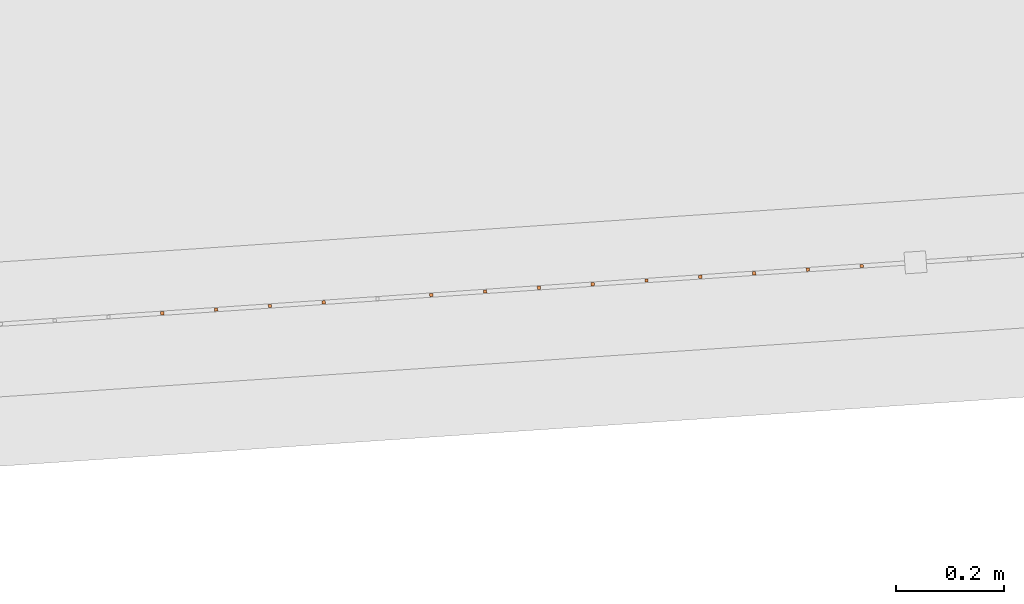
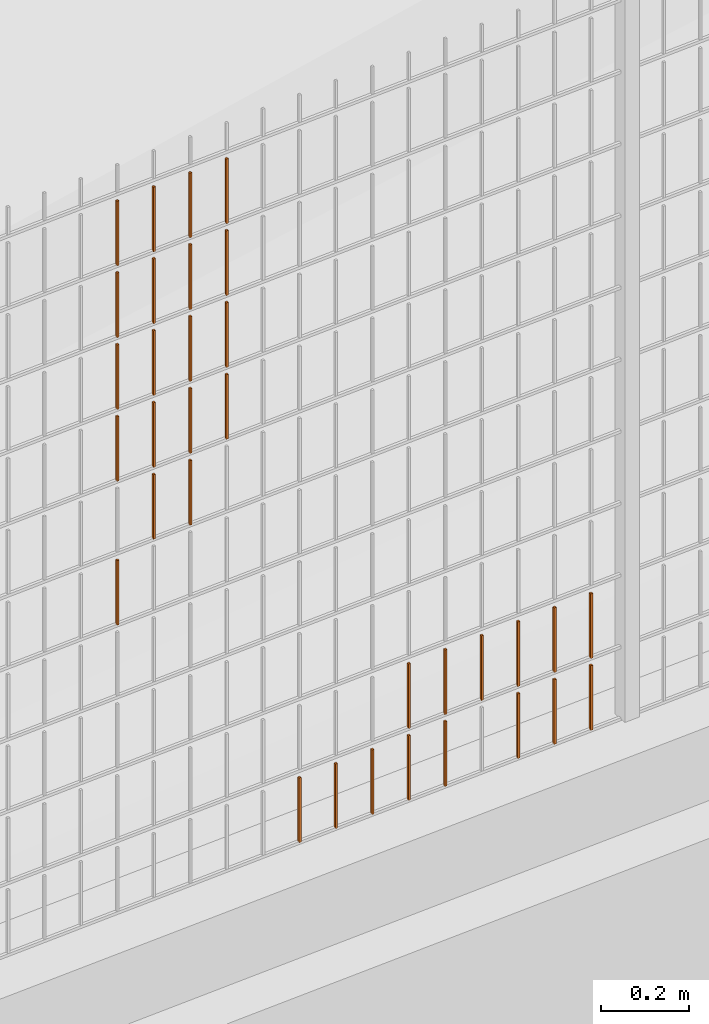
# One storey, part 108 of 1809: 33 proxies, 1 element without a shape of its own.
"""IFC2X3 building model written with IfcOpenShell, lengths in millimetres."""

import ifcopenshell
import ifcopenshell.guid

model = None  # the IFC model being written
_history = None  # IfcOwnerHistory: only IFC2X3 demands one
_inside = {}  # id of a spatial element -> (the spatial element, [elements in it])
_under = {}  # id of a project, library or spatial element -> (it, [spatial elements below it])
_declared = {}  # id of a project -> (the project, [libraries it declares])
_typed = {}  # id of a type object -> (the type object, [elements of that type])
_made_of = {}  # id of a material, layer set ... -> (it, [elements and type objects made of it])


def new_model(schema):
    """Start an empty IFC model of exactly this schema.

    Asked for "IFC4X3", IfcOpenShell would pick the latest addendum, in which some entities
    have other attributes; the version numbers below select the first issue.
    IFC2X3 requires an IfcOwnerHistory on every rooted entity: one is made here for all.
    """
    global model, _history
    if schema == "IFC4X3":
        model = ifcopenshell.file(schema_version=(4, 3, 0, 0))
    else:
        model = ifcopenshell.file(schema=schema)
    _inside.clear()
    _under.clear()
    _declared.clear()
    _typed.clear()
    _made_of.clear()
    _history = None
    if model.schema == "IFC2X3":
        org = make("IfcOrganization", Name="unknown")
        user = make(
            "IfcPersonAndOrganization",
            ThePerson=make("IfcPerson", FamilyName="unknown"),
            TheOrganization=org,
        )
        app = make(
            "IfcApplication",
            ApplicationDeveloper=org,
            Version="unknown",
            ApplicationFullName="unknown",
            ApplicationIdentifier="unknown",
        )
        _history = make(
            "IfcOwnerHistory",
            OwningUser=user,
            OwningApplication=app,
            ChangeAction="ADDED",
            CreationDate=0,
        )
    return model


def make(cls, **values):
    """One entity of the class cls with the attributes given. An attribute that is None is left unset."""
    return model.create_entity(
        cls, **{name: value for name, value in values.items() if value is not None}
    )


def entity(cls, *values):
    """Any entity or typed value of the class cls, its attributes in the order of the schema. None: left unset."""
    e = model.create_entity(cls)
    for i, value in enumerate(values):
        if value is not None:
            e[i] = value
    return e


def rooted(cls, **values):
    """An entity with a GlobalId (a new one), such as an element, a storey or a relation."""
    return make(cls, GlobalId=ifcopenshell.guid.new(), OwnerHistory=_history, **values)


def si_unit(unit_type, name, prefix=None):
    """IfcSIUnit, for example si_unit("LENGTHUNIT", "METRE", prefix="MILLI")."""
    return make("IfcSIUnit", UnitType=unit_type, Prefix=prefix, Name=name)


def converted_unit(unit_type, name, factor, base, dimensions=None, offset=None):
    """IfcConversionBasedUnit, such as the inch: factor (a typed value) times the base unit."""
    return make(
        "IfcConversionBasedUnit"
        if offset is None
        else "IfcConversionBasedUnitWithOffset",
        ConversionOffset=offset,
        Dimensions=None
        if dimensions is None
        else entity("IfcDimensionalExponents", *dimensions),
        UnitType=unit_type,
        Name=name,
        ConversionFactor=make(
            "IfcMeasureWithUnit", ValueComponent=factor, UnitComponent=base
        ),
    )


def derived_unit(unit_type, elements):
    """IfcDerivedUnit: a product of units, each with its exponent."""
    return make(
        "IfcDerivedUnit",
        Elements=[
            make("IfcDerivedUnitElement", Unit=unit, Exponent=power)
            for unit, power in elements
        ],
        UnitType=unit_type,
    )


def money_unit(currency):
    """IfcMonetaryUnit."""
    return make("IfcMonetaryUnit", Currency=currency)


def assignment(units):
    """IfcUnitAssignment: the units of a project."""
    return None if units is None else make("IfcUnitAssignment", Units=units)


def point(xyz):
    """IfcCartesianPoint."""
    return None if xyz is None else make("IfcCartesianPoint", Coordinates=xyz)


def direction(xyz):
    """IfcDirection."""
    return None if xyz is None else make("IfcDirection", DirectionRatios=xyz)


def frame(location, z_axis=None, x_axis=None):
    """IfcAxis2Placement3D, a coordinate frame: its origin and axes. An axis left out is left unset."""
    return make(
        "IfcAxis2Placement3D",
        Location=point(location),
        Axis=direction(z_axis),
        RefDirection=direction(x_axis),
    )


def origin_with_axes():
    """The frame at (0, 0, 0) with the z axis (0, 0, 1) and the x axis (1, 0, 0) written out."""
    return frame((0.0, 0.0, 0.0), z_axis=(0.0, 0.0, 1.0), x_axis=(1.0, 0.0, 0.0))


def place(relative_to, where):
    """IfcLocalPlacement: puts the frame where relative to a parent placement (None: the world)."""
    return make(
        "IfcLocalPlacement", PlacementRelTo=relative_to, RelativePlacement=where
    )


def context(
    kind, dimensions, precision=None, world=None, true_north=None, identifier=None
):
    """IfcGeometricRepresentationContext, for example the 3D "Model" context."""
    return make(
        "IfcGeometricRepresentationContext",
        ContextIdentifier=identifier,
        ContextType=kind,
        CoordinateSpaceDimension=dimensions,
        Precision=precision,
        WorldCoordinateSystem=world,
        TrueNorth=true_north,
    )


def subcontext(parent, identifier, kind, view, scale=None):
    """IfcGeometricRepresentationSubContext, for example "Body" below "Model"."""
    return make(
        "IfcGeometricRepresentationSubContext",
        ContextIdentifier=identifier,
        ContextType=kind,
        ParentContext=parent,
        TargetScale=scale,
        TargetView=view,
    )


def project(units=None, contexts=None):
    """IfcProject with its units and contexts."""
    return rooted(
        "IfcProject",
        Name="project",
        RepresentationContexts=contexts,
        UnitsInContext=assignment(units),
    )


def spatial(cls, under=None, at=None, **own):
    """A site, building, storey or space (cls), placed at a placement, below another one or the project."""
    s = rooted(cls, ObjectPlacement=at, **own)
    if under is not None:
        _under.setdefault(under.id(), (under, []))[1].append(s)
    return s


def faces_of(points, faces, orient=None, outer=None):
    """IfcFace entities. A face is a list of loops; a loop is a list of indices into points, from 0.

    orient and outer hold one flag for each loop. By default every Orientation is true, the
    first loop of a face is its IfcFaceOuterBound and the others are IfcFaceBound.
    """
    made = []
    for i, loops in enumerate(faces):
        bounds = []
        for j, loop in enumerate(loops):
            is_outer = j == 0 if outer is None else outer[i][j]
            bounds.append(
                make(
                    "IfcFaceOuterBound" if is_outer else "IfcFaceBound",
                    Bound=make("IfcPolyLoop", Polygon=[points[k] for k in loop]),
                    Orientation=True if orient is None else orient[i][j],
                )
            )
        made.append(make("IfcFace", Bounds=bounds))
    return made


def faceted_brep(points, faces, orient=None, outer=None, voids=None):
    """IfcFacetedBrep: a solid bounded by flat faces; with voids (closed shells), ...WithVoids."""
    shared = [point(p) for p in points]
    hull = make("IfcClosedShell", CfsFaces=faces_of(shared, faces, orient, outer))
    if voids is None:
        return make("IfcFacetedBrep", Outer=hull)
    return make(
        "IfcFacetedBrepWithVoids",
        Outer=hull,
        Voids=[
            make(cls, CfsFaces=faces_of(shared, fs, o, b)) for cls, fs, o, b in voids
        ],
    )


def shape(context_of_items, identifier, shape_type, items):
    """IfcShapeRepresentation: the items that make up one representation, for example the "Body"."""
    return make(
        "IfcShapeRepresentation",
        ContextOfItems=context_of_items,
        RepresentationIdentifier=identifier,
        RepresentationType=shape_type,
        Items=items,
    )


def source(mapping_origin, context_of_items, identifier, shape_type, items):
    """IfcRepresentationMap: a shape defined once, which mapped items show again and again."""
    return make(
        "IfcRepresentationMap",
        MappingOrigin=mapping_origin,
        MappedRepresentation=shape(context_of_items, identifier, shape_type, items),
    )


def transform(
    local_origin,
    x_axis=None,
    y_axis=None,
    z_axis=None,
    scale=None,
    scale2=None,
    scale3=None,
    uniform=True,
):
    """IfcCartesianTransformationOperator3D, or its non-uniform kind. x_axis, y_axis, z_axis: its Axis1, 2, 3."""
    if uniform:
        return make(
            "IfcCartesianTransformationOperator3D",
            Axis1=direction(x_axis),
            Axis2=direction(y_axis),
            LocalOrigin=point(local_origin),
            Scale=scale,
            Axis3=direction(z_axis),
        )
    return make(
        "IfcCartesianTransformationOperator3DnonUniform",
        Axis1=direction(x_axis),
        Axis2=direction(y_axis),
        LocalOrigin=point(local_origin),
        Scale=scale,
        Axis3=direction(z_axis),
        Scale2=scale2,
        Scale3=scale3,
    )


def mapped(mapping_source, mapping_target):
    """IfcMappedItem: shows the shape of a source again, moved by a transform."""
    return make(
        "IfcMappedItem", MappingSource=mapping_source, MappingTarget=mapping_target
    )


def material(Name=None, Category=None):
    """IfcMaterial."""
    return make("IfcMaterial", Name=Name, Category=Category)


def made_of(thing, what):
    """Note that an element or type object is made of a material, layer set ...; save() writes the relation."""
    if what is not None:
        _made_of.setdefault(what.id(), (what, []))[1].append(thing)
    return thing


def type_object(cls, material=None, **own):
    """A type object (cls), such as IfcWallType, which elements share."""
    return made_of(rooted(cls, **own), material)


def element(
    cls,
    number,
    at=None,
    inside=None,
    cuts=None,
    type_object=None,
    material=None,
    context=None,
    identifier="Body",
    shape_type=None,
    held_by="IfcProductDefinitionShape",
    body=None,
    shapes=None,
    **own,
):
    """One element of the class cls, such as IfcWall. Its Tag is "e" and its number.

    at: its placement. inside: the storey or other place that contains it. cuts: it is an
    opening in that element (IfcRelVoidsElement). A single representation is given by context,
    identifier, shape_type and body (its items); several are given by shapes. held_by: the class
    of the entity that holds the representations. save() writes the other relations.
    """
    e = rooted(cls, Tag="e%d" % number, ObjectPlacement=at, **own)
    if body is not None:
        shapes = [shape(context, identifier, shape_type, body)]
    if shapes is not None:
        e.Representation = make(held_by, Representations=shapes)
    if inside is not None:
        _inside.setdefault(inside.id(), (inside, []))[1].append(e)
    if cuts is not None:
        rooted(
            "IfcRelVoidsElement", RelatingBuildingElement=cuts, RelatedOpeningElement=e
        )
    if type_object is not None:
        _typed.setdefault(type_object.id(), (type_object, []))[1].append(e)
    return made_of(e, material)


def aggregate(whole, parts):
    """IfcRelAggregates: a whole, such as a stair, and the parts it consists of."""
    return rooted("IfcRelAggregates", RelatingObject=whole, RelatedObjects=parts)


def save(model, path):
    """Write the relations noted so far, then the file.

    IfcRelAggregates (storeys below a building ...), IfcRelContainedInSpatialStructure (elements
    in a storey), IfcRelDefinesByType, IfcRelAssociatesMaterial and IfcRelDeclares: one each for
    every whole, place, type object, material and project.
    """
    for whole, parts in _under.values():
        aggregate(whole, parts)
    for where, things in _inside.values():
        rooted(
            "IfcRelContainedInSpatialStructure",
            RelatedElements=things,
            RelatingStructure=where,
        )
    for kind, things in _typed.values():
        rooted("IfcRelDefinesByType", RelatedObjects=things, RelatingType=kind)
    for what, things in _made_of.values():
        rooted("IfcRelAssociatesMaterial", RelatedObjects=things, RelatingMaterial=what)
    for by, libraries in _declared.values():
        rooted("IfcRelDeclares", RelatingContext=by, RelatedDefinitions=libraries)
    model.write(path)


model = new_model("IFC2X3")

# Units and contexts
model_context = context("Model", 3, precision=0.01, world=origin_with_axes(), true_north=direction((0.0, 1.0)))
body_context = subcontext(model_context, "Body", "Model", "MODEL_VIEW")
ifc_project = project(units=[si_unit("LENGTHUNIT", "METRE", prefix="MILLI"), si_unit("AREAUNIT", "SQUARE_METRE"), si_unit("VOLUMEUNIT", "CUBIC_METRE"), converted_unit("PLANEANGLEUNIT", "DEGREE", entity("IfcPlaneAngleMeasure", 0.0174532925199), si_unit("PLANEANGLEUNIT", "RADIAN"), dimensions=[0, 0, 0, 0, 0, 0, 0]), si_unit("SOLIDANGLEUNIT", "STERADIAN"), money_unit("EUR"), converted_unit("TIMEUNIT", "Year", entity("IfcTimeMeasure", 31556926.0), si_unit("TIMEUNIT", "SECOND"), dimensions=[0, 0, 1, 0, 0, 0, 0]), si_unit("MASSUNIT", "GRAM", prefix="KILO"), si_unit("THERMODYNAMICTEMPERATUREUNIT", "DEGREE_CELSIUS"), si_unit("LUMINOUSINTENSITYUNIT", "LUMEN"), si_unit("ENERGYUNIT", "JOULE", prefix="MEGA"), derived_unit("THERMALCONDUCTANCEUNIT", [(si_unit("POWERUNIT", "WATT"), 1), (si_unit("LENGTHUNIT", "METRE"), -1), (si_unit("THERMODYNAMICTEMPERATUREUNIT", "KELVIN"), -1)]), derived_unit("SPECIFICHEATCAPACITYUNIT", [(si_unit("ENERGYUNIT", "JOULE"), 1), (si_unit("MASSUNIT", "GRAM", prefix="KILO"), -1), (si_unit("THERMODYNAMICTEMPERATUREUNIT", "KELVIN"), -1)]), derived_unit("MASSDENSITYUNIT", [(si_unit("MASSUNIT", "GRAM", prefix="KILO"), 1), (si_unit("VOLUMEUNIT", "CUBIC_METRE"), -1)])], contexts=[model_context])

# Site, building, storey
site_placement = place(None, origin_with_axes())
site = spatial("IfcSite", under=ifc_project, at=site_placement, Name="Politse- ja Piirivalveameti ning Päästeameti ühishoone", CompositionType="ELEMENT")
building_placement = place(site_placement, origin_with_axes())
building = spatial("IfcBuilding", under=site, at=building_placement, Name="Politse- ja Piirivalveameti ning Päästeameti ühishoone", CompositionType="ELEMENT")
storey_placement = place(building_placement, origin_with_axes())
storey = spatial("IfcBuildingStorey", under=building, at=storey_placement, Name="Esimene korrus", CompositionType="ELEMENT", Elevation=0.0)

# Proxies
building_element_proxy_type_1 = type_object("IfcBuildingElementProxyType", Name="Railing Type", PredefinedType="NOTDEFINED")
proxy_1_placement = place(storey_placement, frame((89252.001212, -29183.4766571, 203.661247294), z_axis=(0.0, 0.0, 1.0), x_axis=(1.0, 0.0, 0.0)))
proxy_1 = element("IfcBuildingElementProxy", 1, at=proxy_1_placement, inside=storey, type_object=building_element_proxy_type_1, Name="PIIRDEAED")
ifc_material = material(Name="ET-03_Raud")
building_element_proxy_type_2 = type_object("IfcBuildingElementProxyType", Name="IfcBuildingElementProxy", PredefinedType="NOTDEFINED")
shared_shape_1 = source(origin_with_axes(), body_context, "Body", "Brep", [
    faceted_brep([(3.0, 3.0, -0.000752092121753), (-3.0, 3.0, -0.000752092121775), (-3.0, 3.0, 179.99926046), (3.0, 3.0, 179.99926046), (3.0, -3.0, 0.000752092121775), (-3.0, -3.0, 0.000752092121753), (-3.0, -3.0, 180.000764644), (3.0, -3.0, 180.000764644)], [[[0, 1, 2, 3]], [[0, 4, 5, 1]], [[1, 5, 6, 2]], [[3, 2, 6, 7]], [[4, 0, 3, 7]], [[5, 4, 7, 6]]]),
])
proxy_2_placement = place(proxy_1_placement, frame((-92715.4219538, -23560.3516192, 3.93790886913), z_axis=(0.0, 0.0, 1.0), x_axis=(1.0, 0.0, 0.0)))
proxy_2 = element("IfcBuildingElementProxy", 2, at=proxy_2_placement, type_object=building_element_proxy_type_2, material=ifc_material, Name="BALUSTER - 001", context=body_context, shape_type="MappedRepresentation", body=[
    mapped(shared_shape_1, transform((0.0, 0.0, 0.0), x_axis=(-0.0673926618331, 0.997726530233, 0.0), y_axis=(-0.997726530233, -0.0673926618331, 0.0), z_axis=(0.0, 0.0, 1.0))),
])
proxy_3_placement = place(proxy_1_placement, frame((-92715.4219538, -23560.3516192, 203.937908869), z_axis=(0.0, 0.0, 1.0), x_axis=(1.0, 0.0, 0.0)))
proxy_3 = element("IfcBuildingElementProxy", 3, at=proxy_3_placement, type_object=building_element_proxy_type_2, material=ifc_material, Name="BALUSTER - 001", context=body_context, shape_type="MappedRepresentation", body=[
    mapped(shared_shape_1, transform((0.0, 0.0, 0.0), x_axis=(-0.0673926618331, 0.997726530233, 0.0), y_axis=(-0.997726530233, -0.0673926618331, 0.0), z_axis=(0.0, 0.0, 1.0))),
])
shared_shape_2 = source(origin_with_axes(), body_context, "Body", "Brep", [
    faceted_brep([(3.0, 3.0, -0.000752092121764), (-3.0, 3.0, -0.000752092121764), (-3.0, 3.0, 179.99926046), (3.0, 3.0, 179.99926046), (3.0, -3.0, 0.000752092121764), (-3.0, -3.0, 0.000752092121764), (-3.0, -3.0, 180.000764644), (3.0, -3.0, 180.000764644)], [[[0, 1, 2, 3]], [[0, 4, 5, 1]], [[1, 5, 6, 2]], [[3, 2, 6, 7]], [[4, 0, 3, 7]], [[5, 4, 7, 6]]]),
])
proxy_4_placement = place(proxy_1_placement, frame((-93014.7399129, -23580.5694178, 3.86269965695), z_axis=(0.0, 0.0, 1.0), x_axis=(1.0, 0.0, 0.0)))
proxy_4 = element("IfcBuildingElementProxy", 4, at=proxy_4_placement, type_object=building_element_proxy_type_2, material=ifc_material, Name="BALUSTER - 001", context=body_context, shape_type="MappedRepresentation", body=[
    mapped(shared_shape_2, transform((0.0, 0.0, 0.0), x_axis=(-0.0673926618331, 0.997726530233, 0.0), y_axis=(-0.997726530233, -0.0673926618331, 0.0), z_axis=(0.0, 0.0, 1.0))),
])
shared_shape_3 = source(origin_with_axes(), body_context, "Body", "Brep", [
    faceted_brep([(3.0, 3.0, -0.000752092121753), (-3.0, 3.0, -0.000752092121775), (-3.0, 3.0, 179.99926046), (3.0, 3.0, 179.99926046), (3.0, -3.0, 0.000752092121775), (-3.0, -3.0, 0.000752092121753), (-3.0, -3.0, 180.000764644), (3.0, -3.0, 180.000764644)], [[[0, 1, 2, 3]], [[0, 4, 5, 1]], [[1, 5, 6, 2]], [[3, 2, 6, 7]], [[4, 0, 3, 7]], [[5, 4, 7, 6]]]),
])
proxy_5_placement = place(proxy_1_placement, frame((-92615.6493008, -23553.612353, 3.96297860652), z_axis=(0.0, 0.0, 1.0), x_axis=(1.0, 0.0, 0.0)))
proxy_5 = element("IfcBuildingElementProxy", 5, at=proxy_5_placement, type_object=building_element_proxy_type_2, material=ifc_material, Name="BALUSTER - 001", context=body_context, shape_type="MappedRepresentation", body=[
    mapped(shared_shape_3, transform((0.0, 0.0, 0.0), x_axis=(-0.0673926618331, 0.997726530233, 0.0), y_axis=(-0.997726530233, -0.0673926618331, 0.0), z_axis=(0.0, 0.0, 1.0))),
])
shared_shape_4 = source(origin_with_axes(), body_context, "Body", "Brep", [
    faceted_brep([(3.0, 3.0, -0.000752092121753), (-3.0, 3.0, -0.000752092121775), (-3.0, 3.0, 179.99926046), (3.0, 3.0, 179.99926046), (3.0, -3.0, 0.000752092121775), (-3.0, -3.0, 0.000752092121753), (-3.0, -3.0, 180.000764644), (3.0, -3.0, 180.000764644)], [[[0, 1, 2, 3]], [[0, 4, 5, 1]], [[1, 5, 6, 2]], [[3, 2, 6, 7]], [[4, 0, 3, 7]], [[5, 4, 7, 6]]]),
])
proxy_6_placement = place(proxy_1_placement, frame((-92615.6493008, -23553.612353, 203.962978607), z_axis=(0.0, 0.0, 1.0), x_axis=(1.0, 0.0, 0.0)))
proxy_6 = element("IfcBuildingElementProxy", 6, at=proxy_6_placement, type_object=building_element_proxy_type_2, material=ifc_material, Name="BALUSTER - 001", context=body_context, shape_type="MappedRepresentation", body=[
    mapped(shared_shape_4, transform((0.0, 0.0, 0.0), x_axis=(-0.0673926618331, 0.997726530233, 0.0), y_axis=(-0.997726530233, -0.0673926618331, 0.0), z_axis=(0.0, 0.0, 1.0))),
])
shared_shape_5 = source(origin_with_axes(), body_context, "Body", "Brep", [
    faceted_brep([(3.0, 3.0, -0.000752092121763), (-3.0, 3.0, -0.000752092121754), (-3.00000000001, 3.0, 179.99926046), (2.99999999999, 3.0, 179.99926046), (3.0, -3.0, 0.000752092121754), (-3.0, -3.0, 0.000752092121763), (-3.00000000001, -3.0, 180.000764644), (2.99999999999, -3.0, 180.000764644)], [[[0, 1, 2, 3]], [[0, 4, 5, 1]], [[1, 5, 6, 2]], [[3, 2, 6, 7]], [[4, 0, 3, 7]], [[5, 4, 7, 6]]]),
])
proxy_7_placement = place(proxy_1_placement, frame((-93413.830525, -23607.5264825, 1003.76242071), z_axis=(0.0, 0.0, 1.0), x_axis=(1.0, 0.0, 0.0)))
proxy_7 = element("IfcBuildingElementProxy", 7, at=proxy_7_placement, type_object=building_element_proxy_type_2, material=ifc_material, Name="BALUSTER - 001", context=body_context, shape_type="MappedRepresentation", body=[
    mapped(shared_shape_5, transform((0.0, 0.0, 0.0), x_axis=(-0.0673926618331, 0.997726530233, 0.0), y_axis=(-0.997726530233, -0.0673926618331, 0.0), z_axis=(0.0, 0.0, 1.0))),
])
shared_shape_6 = source(origin_with_axes(), body_context, "Body", "Brep", [
    faceted_brep([(3.0, 3.0, -0.000752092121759), (-3.0, 3.0, -0.000752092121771), (-3.00000000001, 3.0, 179.99926046), (2.99999999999, 3.0, 179.99926046), (3.0, -3.0, 0.000752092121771), (-3.0, -3.0, 0.000752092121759), (-3.00000000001, -3.0, 180.000764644), (2.99999999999, -3.0, 180.000764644)], [[[0, 1, 2, 3]], [[0, 4, 5, 1]], [[1, 5, 6, 2]], [[3, 2, 6, 7]], [[4, 0, 3, 7]], [[5, 4, 7, 6]]]),
])
proxy_8_placement = place(proxy_1_placement, frame((-93314.057872, -23600.7872163, 1003.78749044), z_axis=(0.0, 0.0, 1.0), x_axis=(1.0, 0.0, 0.0)))
proxy_8 = element("IfcBuildingElementProxy", 8, at=proxy_8_placement, type_object=building_element_proxy_type_2, material=ifc_material, Name="BALUSTER - 001", context=body_context, shape_type="MappedRepresentation", body=[
    mapped(shared_shape_6, transform((0.0, 0.0, 0.0), x_axis=(-0.0673926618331, 0.997726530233, 0.0), y_axis=(-0.997726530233, -0.0673926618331, 0.0), z_axis=(0.0, 0.0, 1.0))),
])
shared_shape_7 = source(origin_with_axes(), body_context, "Body", "Brep", [
    faceted_brep([(3.0, 3.0, -0.000752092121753), (-3.0, 3.0, -0.000752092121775), (-3.0, 3.0, 179.99926046), (3.0, 3.0, 179.99926046), (3.0, -3.0, 0.000752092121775), (-3.0, -3.0, 0.000752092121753), (-3.0, -3.0, 180.000764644), (3.0, -3.0, 180.000764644)], [[[0, 1, 2, 3]], [[0, 4, 5, 1]], [[1, 5, 6, 2]], [[3, 2, 6, 7]], [[4, 0, 3, 7]], [[5, 4, 7, 6]]]),
])
proxy_9_placement = place(proxy_1_placement, frame((-93214.285219, -23594.0479501, 1803.81256018), z_axis=(0.0, 0.0, 1.0), x_axis=(1.0, 0.0, 0.0)))
proxy_9 = element("IfcBuildingElementProxy", 9, at=proxy_9_placement, type_object=building_element_proxy_type_2, material=ifc_material, Name="BALUSTER - 001", context=body_context, shape_type="MappedRepresentation", body=[
    mapped(shared_shape_7, transform((0.0, 0.0, 0.0), x_axis=(-0.0673926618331, 0.997726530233, 0.0), y_axis=(-0.997726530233, -0.0673926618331, 0.0), z_axis=(0.0, 0.0, 1.0))),
])
shared_shape_8 = source(origin_with_axes(), body_context, "Body", "Brep", [
    faceted_brep([(3.0, 3.0, -0.000752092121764), (-3.0, 3.0, -0.000752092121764), (-3.0, 3.0, 179.99926046), (3.0, 3.0, 179.99926046), (3.0, -3.0, 0.000752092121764), (-3.0, -3.0, 0.000752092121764), (-3.0, -3.0, 180.000764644), (3.0, -3.0, 180.000764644)], [[[0, 1, 2, 3]], [[0, 4, 5, 1]], [[1, 5, 6, 2]], [[3, 2, 6, 7]], [[4, 0, 3, 7]], [[5, 4, 7, 6]]]),
])
proxy_10_placement = place(proxy_1_placement, frame((-92515.8766478, -23546.8730868, 203.988048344), z_axis=(0.0, 0.0, 1.0), x_axis=(1.0, 0.0, 0.0)))
proxy_10 = element("IfcBuildingElementProxy", 10, at=proxy_10_placement, type_object=building_element_proxy_type_2, material=ifc_material, Name="BALUSTER - 001", context=body_context, shape_type="MappedRepresentation", body=[
    mapped(shared_shape_8, transform((0.0, 0.0, 0.0), x_axis=(-0.0673926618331, 0.997726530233, 0.0), y_axis=(-0.997726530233, -0.0673926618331, 0.0), z_axis=(0.0, 0.0, 1.0))),
])
shared_shape_9 = source(origin_with_axes(), body_context, "Body", "Brep", [
    faceted_brep([(3.0, 3.0, -0.000752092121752), (-3.0, 3.0, -0.000752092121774), (-3.0, 3.0, 179.99926046), (3.0, 3.0, 179.99926046), (3.0, -3.0, 0.000752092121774), (-3.0, -3.0, 0.000752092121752), (-3.0, -3.0, 180.000764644), (3.0, -3.0, 180.000764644)], [[[0, 1, 2, 3]], [[0, 4, 5, 1]], [[1, 5, 6, 2]], [[3, 2, 6, 7]], [[4, 0, 3, 7]], [[5, 4, 7, 6]]]),
])
proxy_11_placement = place(proxy_1_placement, frame((-92416.1039948, -23540.1338207, 204.013118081), z_axis=(0.0, 0.0, 1.0), x_axis=(1.0, 0.0, 0.0)))
proxy_11 = element("IfcBuildingElementProxy", 11, at=proxy_11_placement, type_object=building_element_proxy_type_2, material=ifc_material, Name="BALUSTER - 001", context=body_context, shape_type="MappedRepresentation", body=[
    mapped(shared_shape_9, transform((0.0, 0.0, 0.0), x_axis=(-0.0673926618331, 0.997726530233, 0.0), y_axis=(-0.997726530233, -0.0673926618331, 0.0), z_axis=(0.0, 0.0, 1.0))),
])
shared_shape_10 = source(origin_with_axes(), body_context, "Body", "Brep", [
    faceted_brep([(3.0, 3.0, -0.000752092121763), (-3.0, 3.0, -0.000752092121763), (-3.0, 3.0, 179.99926046), (3.0, 3.0, 179.99926046), (3.0, -3.0, 0.000752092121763), (-3.0, -3.0, 0.000752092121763), (-3.0, -3.0, 180.000764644), (3.0, -3.0, 180.000764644)], [[[0, 1, 2, 3]], [[0, 4, 5, 1]], [[1, 5, 6, 2]], [[3, 2, 6, 7]], [[4, 0, 3, 7]], [[5, 4, 7, 6]]]),
])
proxy_12_placement = place(proxy_1_placement, frame((-93513.603178, -23614.2657487, 803.73735097), z_axis=(0.0, 0.0, 1.0), x_axis=(1.0, 0.0, 0.0)))
proxy_12 = element("IfcBuildingElementProxy", 12, at=proxy_12_placement, type_object=building_element_proxy_type_2, material=ifc_material, Name="BALUSTER - 001", context=body_context, shape_type="MappedRepresentation", body=[
    mapped(shared_shape_10, transform((0.0, 0.0, 0.0), x_axis=(-0.0673926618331, 0.997726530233, 0.0), y_axis=(-0.997726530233, -0.0673926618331, 0.0), z_axis=(0.0, 0.0, 1.0))),
])
shared_shape_11 = source(origin_with_axes(), body_context, "Body", "Brep", [
    faceted_brep([(3.0, 3.0, -0.000752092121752), (-3.0, 3.0, -0.000752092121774), (-3.0, 3.0, 179.99926046), (3.0, 3.0, 179.99926046), (3.0, -3.0, 0.000752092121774), (-3.0, -3.0, 0.000752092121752), (-3.0, -3.0, 180.000764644), (3.0, -3.0, 180.000764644)], [[[0, 1, 2, 3]], [[0, 4, 5, 1]], [[1, 5, 6, 2]], [[3, 2, 6, 7]], [[4, 0, 3, 7]], [[5, 4, 7, 6]]]),
])
proxy_13_placement = place(proxy_1_placement, frame((-92416.1039948, -23540.1338207, 4.01311808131), z_axis=(0.0, 0.0, 1.0), x_axis=(1.0, 0.0, 0.0)))
proxy_13 = element("IfcBuildingElementProxy", 13, at=proxy_13_placement, type_object=building_element_proxy_type_2, material=ifc_material, Name="BALUSTER - 001", context=body_context, shape_type="MappedRepresentation", body=[
    mapped(shared_shape_11, transform((0.0, 0.0, 0.0), x_axis=(-0.0673926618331, 0.997726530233, 0.0), y_axis=(-0.997726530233, -0.0673926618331, 0.0), z_axis=(0.0, 0.0, 1.0))),
])
shared_shape_12 = source(origin_with_axes(), body_context, "Body", "Brep", [
    faceted_brep([(3.0, 3.0, -0.000752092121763), (-3.0, 3.0, -0.000752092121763), (-3.0, 3.0, 179.99926046), (3.0, 3.0, 179.99926046), (3.0, -3.0, 0.000752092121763), (-3.0, -3.0, 0.000752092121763), (-3.0, -3.0, 180.000764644), (3.0, -3.0, 180.000764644)], [[[0, 1, 2, 3]], [[0, 4, 5, 1]], [[1, 5, 6, 2]], [[3, 2, 6, 7]], [[4, 0, 3, 7]], [[5, 4, 7, 6]]]),
])
proxy_14_placement = place(proxy_1_placement, frame((-92216.5586887, -23526.6552883, 4.06325755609), z_axis=(0.0, 0.0, 1.0), x_axis=(1.0, 0.0, 0.0)))
proxy_14 = element("IfcBuildingElementProxy", 14, at=proxy_14_placement, type_object=building_element_proxy_type_2, material=ifc_material, Name="BALUSTER - 001", context=body_context, shape_type="MappedRepresentation", body=[
    mapped(shared_shape_12, transform((0.0, 0.0, 0.0), x_axis=(-0.0673926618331, 0.997726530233, 0.0), y_axis=(-0.997726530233, -0.0673926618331, 0.0), z_axis=(0.0, 0.0, 1.0))),
])
proxy_15_placement = place(proxy_1_placement, frame((-92914.9672599, -23573.8301516, 3.88776939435), z_axis=(0.0, 0.0, 1.0), x_axis=(1.0, 0.0, 0.0)))
proxy_15 = element("IfcBuildingElementProxy", 15, at=proxy_15_placement, type_object=building_element_proxy_type_2, material=ifc_material, Name="BALUSTER - 001", context=body_context, shape_type="MappedRepresentation", body=[
    mapped(shared_shape_12, transform((0.0, 0.0, 0.0), x_axis=(-0.0673926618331, 0.997726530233, 0.0), y_axis=(-0.997726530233, -0.0673926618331, 0.0), z_axis=(0.0, 0.0, 1.0))),
])
shared_shape_13 = source(origin_with_axes(), body_context, "Body", "Brep", [
    faceted_brep([(3.0, 3.0, -0.000752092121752), (-3.0, 3.0, -0.000752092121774), (-3.0, 3.0, 179.99926046), (3.0, 3.0, 179.99926046), (3.0, -3.0, 0.000752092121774), (-3.0, -3.0, 0.000752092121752), (-3.0, -3.0, 180.000764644), (3.0, -3.0, 180.000764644)], [[[0, 1, 2, 3]], [[0, 4, 5, 1]], [[1, 5, 6, 2]], [[3, 2, 6, 7]], [[4, 0, 3, 7]], [[5, 4, 7, 6]]]),
])
proxy_16_placement = place(proxy_1_placement, frame((-92316.3313417, -23533.3945545, 4.0381878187), z_axis=(0.0, 0.0, 1.0), x_axis=(1.0, 0.0, 0.0)))
proxy_16 = element("IfcBuildingElementProxy", 16, at=proxy_16_placement, type_object=building_element_proxy_type_2, material=ifc_material, Name="BALUSTER - 001", context=body_context, shape_type="MappedRepresentation", body=[
    mapped(shared_shape_13, transform((0.0, 0.0, 0.0), x_axis=(-0.0673926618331, 0.997726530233, 0.0), y_axis=(-0.997726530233, -0.0673926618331, 0.0), z_axis=(0.0, 0.0, 1.0))),
])
shared_shape_14 = source(origin_with_axes(), body_context, "Body", "Brep", [
    faceted_brep([(3.0, 3.0, -0.000752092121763), (-3.0, 3.0, -0.000752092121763), (-3.0, 3.0, 179.99926046), (3.0, 3.0, 179.99926046), (3.0, -3.0, 0.000752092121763), (-3.0, -3.0, 0.000752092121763), (-3.0, -3.0, 180.000764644), (3.0, -3.0, 180.000764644)], [[[0, 1, 2, 3]], [[0, 4, 5, 1]], [[1, 5, 6, 2]], [[3, 2, 6, 7]], [[4, 0, 3, 7]], [[5, 4, 7, 6]]]),
])
proxy_17_placement = place(proxy_1_placement, frame((-92216.5586887, -23526.6552883, 204.063257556), z_axis=(0.0, 0.0, 1.0), x_axis=(1.0, 0.0, 0.0)))
proxy_17 = element("IfcBuildingElementProxy", 17, at=proxy_17_placement, type_object=building_element_proxy_type_2, material=ifc_material, Name="BALUSTER - 001", context=body_context, shape_type="MappedRepresentation", body=[
    mapped(shared_shape_14, transform((0.0, 0.0, 0.0), x_axis=(-0.0673926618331, 0.997726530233, 0.0), y_axis=(-0.997726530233, -0.0673926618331, 0.0), z_axis=(0.0, 0.0, 1.0))),
])
shared_shape_15 = source(origin_with_axes(), body_context, "Body", "Brep", [
    faceted_brep([(3.0, 3.0, -0.000752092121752), (-3.0, 3.0, -0.000752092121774), (-3.0, 3.0, 179.99926046), (3.0, 3.0, 179.99926046), (3.0, -3.0, 0.000752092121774), (-3.0, -3.0, 0.000752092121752), (-3.0, -3.0, 180.000764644), (3.0, -3.0, 180.000764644)], [[[0, 1, 2, 3]], [[0, 4, 5, 1]], [[1, 5, 6, 2]], [[3, 2, 6, 7]], [[4, 0, 3, 7]], [[5, 4, 7, 6]]]),
])
proxy_18_placement = place(proxy_1_placement, frame((-92316.3313417, -23533.3945545, 204.038187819), z_axis=(0.0, 0.0, 1.0), x_axis=(1.0, 0.0, 0.0)))
proxy_18 = element("IfcBuildingElementProxy", 18, at=proxy_18_placement, type_object=building_element_proxy_type_2, material=ifc_material, Name="BALUSTER - 001", context=body_context, shape_type="MappedRepresentation", body=[
    mapped(shared_shape_15, transform((0.0, 0.0, 0.0), x_axis=(-0.0673926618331, 0.997726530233, 0.0), y_axis=(-0.997726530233, -0.0673926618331, 0.0), z_axis=(0.0, 0.0, 1.0))),
])
shared_shape_16 = source(origin_with_axes(), body_context, "Body", "Brep", [
    faceted_brep([(3.0, 3.0, -0.000752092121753), (-3.0, 3.0, -0.000752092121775), (-3.0, 3.0, 179.99926046), (3.0, 3.0, 179.99926046), (3.0, -3.0, 0.000752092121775), (-3.0, -3.0, 0.000752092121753), (-3.0, -3.0, 180.000764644), (3.0, -3.0, 180.000764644)], [[[0, 1, 2, 3]], [[0, 4, 5, 1]], [[1, 5, 6, 2]], [[3, 2, 6, 7]], [[4, 0, 3, 7]], [[5, 4, 7, 6]]]),
])
proxy_19_placement = place(proxy_1_placement, frame((-93214.285219, -23594.0479501, 1203.81256018), z_axis=(0.0, 0.0, 1.0), x_axis=(1.0, 0.0, 0.0)))
proxy_19 = element("IfcBuildingElementProxy", 19, at=proxy_19_placement, type_object=building_element_proxy_type_2, material=ifc_material, Name="BALUSTER - 001", context=body_context, shape_type="MappedRepresentation", body=[
    mapped(shared_shape_16, transform((0.0, 0.0, 0.0), x_axis=(-0.0673926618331, 0.997726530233, 0.0), y_axis=(-0.997726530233, -0.0673926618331, 0.0), z_axis=(0.0, 0.0, 1.0))),
])
shared_shape_17 = source(origin_with_axes(), body_context, "Body", "Brep", [
    faceted_brep([(3.0, 3.0, -0.000752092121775), (-3.0, 3.0, -0.000752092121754), (-3.0, 3.0, 179.99926046), (3.0, 3.0, 179.99926046), (3.0, -3.0, 0.000752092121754), (-3.0, -3.0, 0.000752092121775), (-3.0, -3.0, 180.000764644), (3.0, -3.0, 180.000764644)], [[[0, 1, 2, 3]], [[0, 4, 5, 1]], [[1, 5, 6, 2]], [[3, 2, 6, 7]], [[4, 0, 3, 7]], [[5, 4, 7, 6]]]),
])
proxy_20_placement = place(proxy_1_placement, frame((-92815.1946069, -23567.0908854, 3.91283913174), z_axis=(0.0, 0.0, 1.0), x_axis=(1.0, 0.0, 0.0)))
proxy_20 = element("IfcBuildingElementProxy", 20, at=proxy_20_placement, type_object=building_element_proxy_type_2, material=ifc_material, Name="BALUSTER - 001", context=body_context, shape_type="MappedRepresentation", body=[
    mapped(shared_shape_17, transform((0.0, 0.0, 0.0), x_axis=(-0.0673926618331, 0.997726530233, 0.0), y_axis=(-0.997726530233, -0.0673926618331, 0.0), z_axis=(0.0, 0.0, 1.0))),
])
shared_shape_18 = source(origin_with_axes(), body_context, "Body", "Brep", [
    faceted_brep([(3.0, 3.0, -0.000752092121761), (-3.0, 3.0, -0.000752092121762), (-3.0, 3.0, 179.99926046), (3.0, 3.0, 179.99926046), (3.0, -3.0, 0.000752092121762), (-3.0, -3.0, 0.000752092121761), (-3.0, -3.0, 180.000764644), (3.0, -3.0, 180.000764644)], [[[0, 1, 2, 3]], [[0, 4, 5, 1]], [[1, 5, 6, 2]], [[3, 2, 6, 7]], [[4, 0, 3, 7]], [[5, 4, 7, 6]]]),
])
proxy_21_placement = place(proxy_1_placement, frame((-93413.830525, -23607.5264825, 1203.76242071), z_axis=(0.0, 0.0, 1.0), x_axis=(1.0, 0.0, 0.0)))
proxy_21 = element("IfcBuildingElementProxy", 21, at=proxy_21_placement, type_object=building_element_proxy_type_2, material=ifc_material, Name="BALUSTER - 001", context=body_context, shape_type="MappedRepresentation", body=[
    mapped(shared_shape_18, transform((0.0, 0.0, 0.0), x_axis=(-0.0673926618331, 0.997726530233, 0.0), y_axis=(-0.997726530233, -0.0673926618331, 0.0), z_axis=(0.0, 0.0, 1.0))),
])
shared_shape_19 = source(origin_with_axes(), body_context, "Body", "Brep", [
    faceted_brep([(3.0, 3.0, -0.000752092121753), (-3.0, 3.0, -0.000752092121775), (-3.0, 3.0, 179.99926046), (3.0, 3.0, 179.99926046), (3.0, -3.0, 0.000752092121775), (-3.0, -3.0, 0.000752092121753), (-3.0, -3.0, 180.000764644), (3.0, -3.0, 180.000764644)], [[[0, 1, 2, 3]], [[0, 4, 5, 1]], [[1, 5, 6, 2]], [[3, 2, 6, 7]], [[4, 0, 3, 7]], [[5, 4, 7, 6]]]),
])
proxy_22_placement = place(proxy_1_placement, frame((-93314.057872, -23600.7872163, 1203.78749044), z_axis=(0.0, 0.0, 1.0), x_axis=(1.0, 0.0, 0.0)))
proxy_22 = element("IfcBuildingElementProxy", 22, at=proxy_22_placement, type_object=building_element_proxy_type_2, material=ifc_material, Name="BALUSTER - 001", context=body_context, shape_type="MappedRepresentation", body=[
    mapped(shared_shape_19, transform((0.0, 0.0, 0.0), x_axis=(-0.0673926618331, 0.997726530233, 0.0), y_axis=(-0.997726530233, -0.0673926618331, 0.0), z_axis=(0.0, 0.0, 1.0))),
])
shared_shape_20 = source(origin_with_axes(), body_context, "Body", "Brep", [
    faceted_brep([(3.0, 3.0, -0.000752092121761), (-3.0, 3.0, -0.000752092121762), (-3.0, 3.0, 179.99926046), (3.0, 3.0, 179.99926046), (3.0, -3.0, 0.000752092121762), (-3.0, -3.0, 0.000752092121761), (-3.0, -3.0, 180.000764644), (3.0, -3.0, 180.000764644)], [[[0, 1, 2, 3]], [[0, 4, 5, 1]], [[1, 5, 6, 2]], [[3, 2, 6, 7]], [[4, 0, 3, 7]], [[5, 4, 7, 6]]]),
])
proxy_23_placement = place(proxy_1_placement, frame((-93513.603178, -23614.2657487, 1203.73735097), z_axis=(0.0, 0.0, 1.0), x_axis=(1.0, 0.0, 0.0)))
proxy_23 = element("IfcBuildingElementProxy", 23, at=proxy_23_placement, type_object=building_element_proxy_type_2, material=ifc_material, Name="BALUSTER - 001", context=body_context, shape_type="MappedRepresentation", body=[
    mapped(shared_shape_20, transform((0.0, 0.0, 0.0), x_axis=(-0.0673926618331, 0.997726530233, 0.0), y_axis=(-0.997726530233, -0.0673926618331, 0.0), z_axis=(0.0, 0.0, 1.0))),
])
shared_shape_21 = source(origin_with_axes(), body_context, "Body", "Brep", [
    faceted_brep([(3.0, 3.0, -0.000752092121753), (-3.0, 3.0, -0.000752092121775), (-3.0, 3.0, 179.99926046), (3.0, 3.0, 179.99926046), (3.0, -3.0, 0.000752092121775), (-3.0, -3.0, 0.000752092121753), (-3.0, -3.0, 180.000764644), (3.0, -3.0, 180.000764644)], [[[0, 1, 2, 3]], [[0, 4, 5, 1]], [[1, 5, 6, 2]], [[3, 2, 6, 7]], [[4, 0, 3, 7]], [[5, 4, 7, 6]]]),
])
proxy_24_placement = place(proxy_1_placement, frame((-93214.285219, -23594.0479501, 1403.81256018), z_axis=(0.0, 0.0, 1.0), x_axis=(1.0, 0.0, 0.0)))
proxy_24 = element("IfcBuildingElementProxy", 24, at=proxy_24_placement, type_object=building_element_proxy_type_2, material=ifc_material, Name="BALUSTER - 001", context=body_context, shape_type="MappedRepresentation", body=[
    mapped(shared_shape_21, transform((0.0, 0.0, 0.0), x_axis=(-0.0673926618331, 0.997726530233, 0.0), y_axis=(-0.997726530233, -0.0673926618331, 0.0), z_axis=(0.0, 0.0, 1.0))),
])
proxy_25_placement = place(proxy_1_placement, frame((-93214.285219, -23594.0479501, 1603.81256018), z_axis=(0.0, 0.0, 1.0), x_axis=(1.0, 0.0, 0.0)))
proxy_25 = element("IfcBuildingElementProxy", 25, at=proxy_25_placement, type_object=building_element_proxy_type_2, material=ifc_material, Name="BALUSTER - 001", context=body_context, shape_type="MappedRepresentation", body=[
    mapped(shared_shape_21, transform((0.0, 0.0, 0.0), x_axis=(-0.0673926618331, 0.997726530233, 0.0), y_axis=(-0.997726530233, -0.0673926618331, 0.0), z_axis=(0.0, 0.0, 1.0))),
])
shared_shape_22 = source(origin_with_axes(), body_context, "Body", "Brep", [
    faceted_brep([(3.0, 3.0, -0.000752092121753), (-3.0, 3.0, -0.000752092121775), (-3.0, 3.0, 179.99926046), (3.0, 3.0, 179.99926046), (3.0, -3.0, 0.000752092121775), (-3.0, -3.0, 0.000752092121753), (-3.0, -3.0, 180.000764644), (3.0, -3.0, 180.000764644)], [[[0, 1, 2, 3]], [[0, 4, 5, 1]], [[1, 5, 6, 2]], [[3, 2, 6, 7]], [[4, 0, 3, 7]], [[5, 4, 7, 6]]]),
])
proxy_26_placement = place(proxy_1_placement, frame((-93314.057872, -23600.7872163, 1403.78749044), z_axis=(0.0, 0.0, 1.0), x_axis=(1.0, 0.0, 0.0)))
proxy_26 = element("IfcBuildingElementProxy", 26, at=proxy_26_placement, type_object=building_element_proxy_type_2, material=ifc_material, Name="BALUSTER - 001", context=body_context, shape_type="MappedRepresentation", body=[
    mapped(shared_shape_22, transform((0.0, 0.0, 0.0), x_axis=(-0.0673926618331, 0.997726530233, 0.0), y_axis=(-0.997726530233, -0.0673926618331, 0.0), z_axis=(0.0, 0.0, 1.0))),
])
proxy_27_placement = place(proxy_1_placement, frame((-93314.057872, -23600.7872163, 1603.78749044), z_axis=(0.0, 0.0, 1.0), x_axis=(1.0, 0.0, 0.0)))
proxy_27 = element("IfcBuildingElementProxy", 27, at=proxy_27_placement, type_object=building_element_proxy_type_2, material=ifc_material, Name="BALUSTER - 001", context=body_context, shape_type="MappedRepresentation", body=[
    mapped(shared_shape_22, transform((0.0, 0.0, 0.0), x_axis=(-0.0673926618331, 0.997726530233, 0.0), y_axis=(-0.997726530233, -0.0673926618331, 0.0), z_axis=(0.0, 0.0, 1.0))),
])
shared_shape_23 = source(origin_with_axes(), body_context, "Body", "Brep", [
    faceted_brep([(3.0, 3.0, -0.000752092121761), (-3.0, 3.0, -0.000752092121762), (-3.0, 3.0, 179.99926046), (3.0, 3.0, 179.99926046), (3.0, -3.0, 0.000752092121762), (-3.0, -3.0, 0.000752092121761), (-3.0, -3.0, 180.000764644), (3.0, -3.0, 180.000764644)], [[[0, 1, 2, 3]], [[0, 4, 5, 1]], [[1, 5, 6, 2]], [[3, 2, 6, 7]], [[4, 0, 3, 7]], [[5, 4, 7, 6]]]),
])
proxy_28_placement = place(proxy_1_placement, frame((-93413.830525, -23607.5264825, 1403.76242071), z_axis=(0.0, 0.0, 1.0), x_axis=(1.0, 0.0, 0.0)))
proxy_28 = element("IfcBuildingElementProxy", 28, at=proxy_28_placement, type_object=building_element_proxy_type_2, material=ifc_material, Name="BALUSTER - 001", context=body_context, shape_type="MappedRepresentation", body=[
    mapped(shared_shape_23, transform((0.0, 0.0, 0.0), x_axis=(-0.0673926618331, 0.997726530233, 0.0), y_axis=(-0.997726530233, -0.0673926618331, 0.0), z_axis=(0.0, 0.0, 1.0))),
])
proxy_29_placement = place(proxy_1_placement, frame((-93413.830525, -23607.5264825, 1603.76242071), z_axis=(0.0, 0.0, 1.0), x_axis=(1.0, 0.0, 0.0)))
proxy_29 = element("IfcBuildingElementProxy", 29, at=proxy_29_placement, type_object=building_element_proxy_type_2, material=ifc_material, Name="BALUSTER - 001", context=body_context, shape_type="MappedRepresentation", body=[
    mapped(shared_shape_23, transform((0.0, 0.0, 0.0), x_axis=(-0.0673926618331, 0.997726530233, 0.0), y_axis=(-0.997726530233, -0.0673926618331, 0.0), z_axis=(0.0, 0.0, 1.0))),
])
shared_shape_24 = source(origin_with_axes(), body_context, "Body", "Brep", [
    faceted_brep([(3.0, 3.0, -0.000752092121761), (-3.0, 3.0, -0.000752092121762), (-3.0, 3.0, 179.99926046), (3.0, 3.0, 179.99926046), (3.0, -3.0, 0.000752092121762), (-3.0, -3.0, 0.000752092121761), (-3.0, -3.0, 180.000764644), (3.0, -3.0, 180.000764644)], [[[0, 1, 2, 3]], [[0, 4, 5, 1]], [[1, 5, 6, 2]], [[3, 2, 6, 7]], [[4, 0, 3, 7]], [[5, 4, 7, 6]]]),
])
proxy_30_placement = place(proxy_1_placement, frame((-93513.603178, -23614.2657487, 1403.73735097), z_axis=(0.0, 0.0, 1.0), x_axis=(1.0, 0.0, 0.0)))
proxy_30 = element("IfcBuildingElementProxy", 30, at=proxy_30_placement, type_object=building_element_proxy_type_2, material=ifc_material, Name="BALUSTER - 001", context=body_context, shape_type="MappedRepresentation", body=[
    mapped(shared_shape_24, transform((0.0, 0.0, 0.0), x_axis=(-0.0673926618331, 0.997726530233, 0.0), y_axis=(-0.997726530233, -0.0673926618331, 0.0), z_axis=(0.0, 0.0, 1.0))),
])
proxy_31_placement = place(proxy_1_placement, frame((-93513.603178, -23614.2657487, 1603.73735097), z_axis=(0.0, 0.0, 1.0), x_axis=(1.0, 0.0, 0.0)))
proxy_31 = element("IfcBuildingElementProxy", 31, at=proxy_31_placement, type_object=building_element_proxy_type_2, material=ifc_material, Name="BALUSTER - 001", context=body_context, shape_type="MappedRepresentation", body=[
    mapped(shared_shape_24, transform((0.0, 0.0, 0.0), x_axis=(-0.0673926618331, 0.997726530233, 0.0), y_axis=(-0.997726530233, -0.0673926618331, 0.0), z_axis=(0.0, 0.0, 1.0))),
])
shared_shape_25 = source(origin_with_axes(), body_context, "Body", "Brep", [
    faceted_brep([(3.0, 3.0, -0.000752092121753), (-3.0, 3.0, -0.000752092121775), (-3.0, 3.0, 179.99926046), (3.0, 3.0, 179.99926046), (3.0, -3.0, 0.000752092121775), (-3.0, -3.0, 0.000752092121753), (-3.0, -3.0, 180.000764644), (3.0, -3.0, 180.000764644)], [[[0, 1, 2, 3]], [[0, 4, 5, 1]], [[1, 5, 6, 2]], [[3, 2, 6, 7]], [[4, 0, 3, 7]], [[5, 4, 7, 6]]]),
])
proxy_32_placement = place(proxy_1_placement, frame((-93314.057872, -23600.7872163, 1803.78749044), z_axis=(0.0, 0.0, 1.0), x_axis=(1.0, 0.0, 0.0)))
proxy_32 = element("IfcBuildingElementProxy", 32, at=proxy_32_placement, type_object=building_element_proxy_type_2, material=ifc_material, Name="BALUSTER - 001", context=body_context, shape_type="MappedRepresentation", body=[
    mapped(shared_shape_25, transform((0.0, 0.0, 0.0), x_axis=(-0.0673926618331, 0.997726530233, 0.0), y_axis=(-0.997726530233, -0.0673926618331, 0.0), z_axis=(0.0, 0.0, 1.0))),
])
shared_shape_26 = source(origin_with_axes(), body_context, "Body", "Brep", [
    faceted_brep([(3.0, 3.0, -0.000752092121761), (-3.0, 3.0, -0.000752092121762), (-3.0, 3.0, 179.99926046), (3.0, 3.0, 179.99926046), (3.0, -3.0, 0.000752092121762), (-3.0, -3.0, 0.000752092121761), (-3.0, -3.0, 180.000764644), (3.0, -3.0, 180.000764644)], [[[0, 1, 2, 3]], [[0, 4, 5, 1]], [[1, 5, 6, 2]], [[3, 2, 6, 7]], [[4, 0, 3, 7]], [[5, 4, 7, 6]]]),
])
proxy_33_placement = place(proxy_1_placement, frame((-93413.830525, -23607.5264825, 1803.76242071), z_axis=(0.0, 0.0, 1.0), x_axis=(1.0, 0.0, 0.0)))
proxy_33 = element("IfcBuildingElementProxy", 33, at=proxy_33_placement, type_object=building_element_proxy_type_2, material=ifc_material, Name="BALUSTER - 001", context=body_context, shape_type="MappedRepresentation", body=[
    mapped(shared_shape_26, transform((0.0, 0.0, 0.0), x_axis=(-0.0673926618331, 0.997726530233, 0.0), y_axis=(-0.997726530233, -0.0673926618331, 0.0), z_axis=(0.0, 0.0, 1.0))),
])
shared_shape_27 = source(origin_with_axes(), body_context, "Body", "Brep", [
    faceted_brep([(3.0, 3.0, -0.000752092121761), (-3.0, 3.0, -0.000752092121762), (-3.0, 3.0, 179.99926046), (3.0, 3.0, 179.99926046), (3.0, -3.0, 0.000752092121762), (-3.0, -3.0, 0.000752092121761), (-3.0, -3.0, 180.000764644), (3.0, -3.0, 180.000764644)], [[[0, 1, 2, 3]], [[0, 4, 5, 1]], [[1, 5, 6, 2]], [[3, 2, 6, 7]], [[4, 0, 3, 7]], [[5, 4, 7, 6]]]),
])
proxy_34_placement = place(proxy_1_placement, frame((-93513.603178, -23614.2657487, 1803.73735097), z_axis=(0.0, 0.0, 1.0), x_axis=(1.0, 0.0, 0.0)))
proxy_34 = element("IfcBuildingElementProxy", 34, at=proxy_34_placement, type_object=building_element_proxy_type_2, material=ifc_material, Name="BALUSTER - 001", context=body_context, shape_type="MappedRepresentation", body=[
    mapped(shared_shape_27, transform((0.0, 0.0, 0.0), x_axis=(-0.0673926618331, 0.997726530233, 0.0), y_axis=(-0.997726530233, -0.0673926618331, 0.0), z_axis=(0.0, 0.0, 1.0))),
])
aggregate(proxy_1, [proxy_14, proxy_16, proxy_13, proxy_5, proxy_2, proxy_20, proxy_15, proxy_4, proxy_17, proxy_18, proxy_11, proxy_10, proxy_6, proxy_3, proxy_12, proxy_8, proxy_7, proxy_19, proxy_22, proxy_21, proxy_23, proxy_24, proxy_26, proxy_28, proxy_30, proxy_25, proxy_27, proxy_29, proxy_31, proxy_9, proxy_32, proxy_33, proxy_34])

save(model, "model.ifc")
